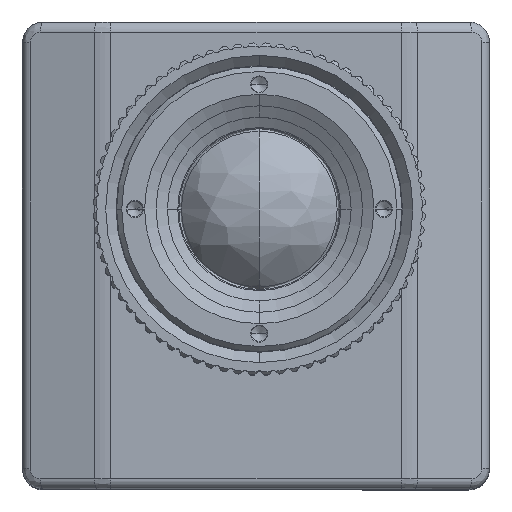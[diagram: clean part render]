
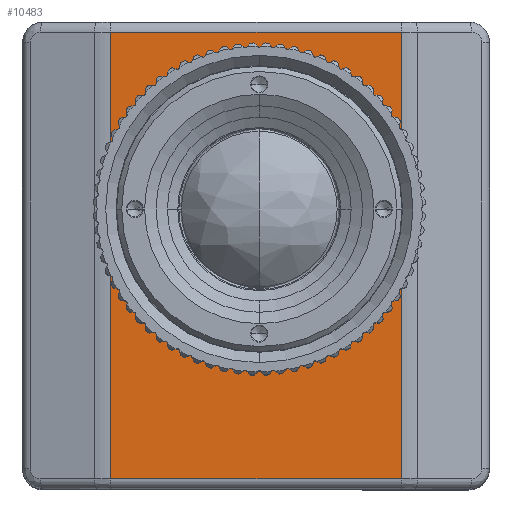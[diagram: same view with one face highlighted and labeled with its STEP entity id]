
A CAD part, top view. The second image highlights one B-rep face of the part: STEP entity #10483.
In plain terms, the highlighted planar face has unit normal (0, 0, 1).
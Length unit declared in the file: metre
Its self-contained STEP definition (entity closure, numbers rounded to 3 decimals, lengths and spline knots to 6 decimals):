
#2405 = LINE ( 'NONE', #94268, #79256 ) ;
#6543 = CARTESIAN_POINT ( 'NONE',  ( -0.0205, -0.026, 0. ) ) ;
#7129 = DIRECTION ( 'NONE',  ( 0., 1., 0. ) ) ;
#7403 = ORIENTED_EDGE ( 'NONE', *, *, #56955, .T. ) ;
#7590 = LINE ( 'NONE', #96019, #47364 ) ;
#9411 = CIRCLE ( 'NONE', #54821, 0.01355 ) ;
#10483 = ADVANCED_FACE ( 'NONE', ( #90367, #53498 ), #92494, .T. ) ;
#11008 = VERTEX_POINT ( 'NONE', #66503 ) ;
#12872 = AXIS2_PLACEMENT_3D ( 'NONE', #19226, #71276, #26744 ) ;
#15018 = EDGE_CURVE ( 'NONE', #11008, #78919, #67777, .T. ) ;
#18815 = EDGE_CURVE ( 'NONE', #23714, #69510, #94901, .T. ) ;
#19226 = CARTESIAN_POINT ( 'NONE',  ( 0., 0., 0. ) ) ;
#20378 = CARTESIAN_POINT ( 'NONE',  ( 0., 0., 0. ) ) ;
#21903 = ORIENTED_EDGE ( 'NONE', *, *, #79056, .T. ) ;
#23714 = VERTEX_POINT ( 'NONE', #89553 ) ;
#26744 = DIRECTION ( 'NONE',  ( 1., 0., 0. ) ) ;
#27888 = DIRECTION ( 'NONE',  ( 1., 0., 0. ) ) ;
#29077 = CARTESIAN_POINT ( 'NONE',  ( -0.0205, 0.017, 0. ) ) ;
#36249 = ORIENTED_EDGE ( 'NONE', *, *, #15018, .T. ) ;
#41834 = CARTESIAN_POINT ( 'NONE',  ( -0.014, 0.017, 0. ) ) ;
#44891 = ORIENTED_EDGE ( 'NONE', *, *, #55949, .T. ) ;
#47364 = VECTOR ( 'NONE', #7129, 1. ) ;
#50634 = VECTOR ( 'NONE', #51572, 1. ) ;
#51572 = DIRECTION ( 'NONE',  ( -1., 0., 0. ) ) ;
#53498 = FACE_BOUND ( 'NONE', #91519, .T. ) ;
#54821 = AXIS2_PLACEMENT_3D ( 'NONE', #20378, #72407, #27888 ) ;
#55757 = VECTOR ( 'NONE', #95470, 1. ) ;
#55949 = EDGE_CURVE ( 'NONE', #61760, #64037, #70311, .T. ) ;
#56955 = EDGE_CURVE ( 'NONE', #78919, #11008, #9411, .T. ) ;
#61760 = VERTEX_POINT ( 'NONE', #71880 ) ;
#64037 = VERTEX_POINT ( 'NONE', #41834 ) ;
#66503 = CARTESIAN_POINT ( 'NONE',  ( 0.01355, 0., 0. ) ) ;
#67777 = CIRCLE ( 'NONE', #12872, 0.01355 ) ;
#67952 = AXIS2_PLACEMENT_3D ( 'NONE', #91647, #91566, #91542 ) ;
#69510 = VERTEX_POINT ( 'NONE', #72280 ) ;
#70311 = LINE ( 'NONE', #29077, #50634 ) ;
#71276 = DIRECTION ( 'NONE',  ( 0., 0., -1. ) ) ;
#71880 = CARTESIAN_POINT ( 'NONE',  ( 0.014, 0.017, 0. ) ) ;
#72280 = CARTESIAN_POINT ( 'NONE',  ( 0.014, -0.026, 0. ) ) ;
#72407 = DIRECTION ( 'NONE',  ( 0., 0., -1. ) ) ;
#78919 = VERTEX_POINT ( 'NONE', #94754 ) ;
#79056 = EDGE_CURVE ( 'NONE', #69510, #61760, #7590, .T. ) ;
#79256 = VECTOR ( 'NONE', #79469, 1. ) ;
#79469 = DIRECTION ( 'NONE',  ( 0., -1., 0. ) ) ;
#85224 = ORIENTED_EDGE ( 'NONE', *, *, #91982, .T. ) ;
#89553 = CARTESIAN_POINT ( 'NONE',  ( -0.014, -0.026, 0. ) ) ;
#90367 = FACE_OUTER_BOUND ( 'NONE', #91455, .T. ) ;
#91455 = EDGE_LOOP ( 'NONE', ( #85224, #94443, #21903, #44891 ) ) ;
#91519 = EDGE_LOOP ( 'NONE', ( #36249, #7403 ) ) ;
#91542 = DIRECTION ( 'NONE',  ( 1., 0., 0. ) ) ;
#91566 = DIRECTION ( 'NONE',  ( 0., 0., 1. ) ) ;
#91647 = CARTESIAN_POINT ( 'NONE',  ( -0.0205, 0.016, 0. ) ) ;
#91982 = EDGE_CURVE ( 'NONE', #64037, #23714, #2405, .T. ) ;
#92494 = PLANE ( 'NONE',  #67952 ) ;
#94268 = CARTESIAN_POINT ( 'NONE',  ( -0.014, 0.016, 0. ) ) ;
#94443 = ORIENTED_EDGE ( 'NONE', *, *, #18815, .T. ) ;
#94754 = CARTESIAN_POINT ( 'NONE',  ( -0.01355, 0., 0. ) ) ;
#94901 = LINE ( 'NONE', #6543, #55757 ) ;
#95470 = DIRECTION ( 'NONE',  ( 1., 0., 0. ) ) ;
#96019 = CARTESIAN_POINT ( 'NONE',  ( 0.014, 0.016, 0. ) ) ;
